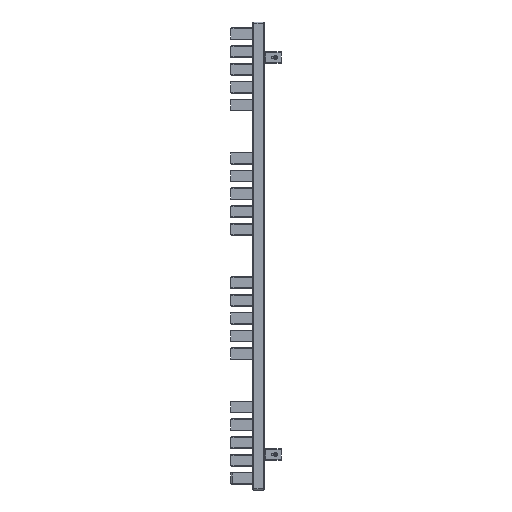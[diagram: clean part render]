
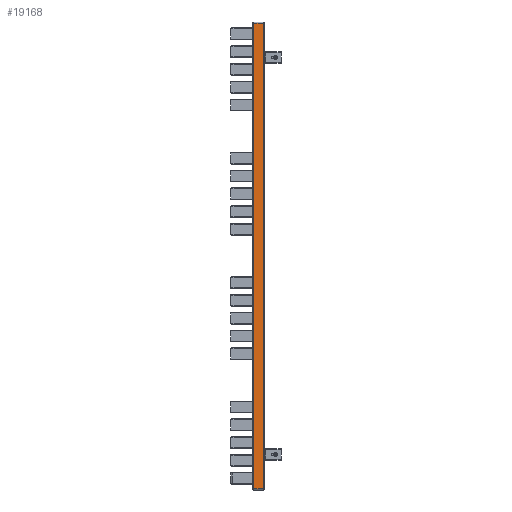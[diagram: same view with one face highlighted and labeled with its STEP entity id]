
A CAD part, left-side view. The second image highlights one B-rep face of the part: STEP entity #19168.
In plain terms, the highlighted planar face has unit normal (-1, 0, 0).
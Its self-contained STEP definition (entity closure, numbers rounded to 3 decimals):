
#19002=CARTESIAN_POINT('',(-300.0,-12.,1182.0));
#19003=VERTEX_POINT('',#19002);
#19012=CARTESIAN_POINT('',(-300.0,12.,1182.0));
#19013=VERTEX_POINT('',#19012);
#19021=CARTESIAN_POINT('',(-300.0,12.,1182.0));
#19022=DIRECTION('',(0.0,-1.0,0.0));
#19023=VECTOR('',#19022,24.);
#19024=LINE('',#19021,#19023);
#19025=EDGE_CURVE('',#19013,#19003,#19024,.T.);
#19126=CARTESIAN_POINT('',(-300.0,-12.,3.0));
#19127=VERTEX_POINT('',#19126);
#19128=CARTESIAN_POINT('',(-300.0,-12.,3.0));
#19129=DIRECTION('',(0.0,0.0,1.0));
#19130=VECTOR('',#19129,1179.0);
#19131=LINE('',#19128,#19130);
#19132=EDGE_CURVE('',#19127,#19003,#19131,.T.);
#19145=CARTESIAN_POINT('',(-300.0,-12.,0.0));
#19146=DIRECTION('',(-1.0,0.0,0.0));
#19147=DIRECTION('',(0.0,0.0,1.0));
#19148=AXIS2_PLACEMENT_3D('',#19145,#19146,#19147);
#19149=PLANE('',#19148);
#19150=ORIENTED_EDGE('',*,*,#19025,.F.);
#19151=CARTESIAN_POINT('',(-300.0,12.,3.0));
#19152=VERTEX_POINT('',#19151);
#19153=CARTESIAN_POINT('',(-300.0,12.,3.0));
#19154=DIRECTION('',(0.0,0.0,1.0));
#19155=VECTOR('',#19154,1179.0);
#19156=LINE('',#19153,#19155);
#19157=EDGE_CURVE('',#19152,#19013,#19156,.T.);
#19158=ORIENTED_EDGE('',*,*,#19157,.F.);
#19159=CARTESIAN_POINT('',(-300.0,-12.,3.0));
#19160=DIRECTION('',(0.0,1.0,0.0));
#19161=VECTOR('',#19160,24.);
#19162=LINE('',#19159,#19161);
#19163=EDGE_CURVE('',#19127,#19152,#19162,.T.);
#19164=ORIENTED_EDGE('',*,*,#19163,.F.);
#19165=ORIENTED_EDGE('',*,*,#19132,.T.);
#19166=EDGE_LOOP('',(#19150,#19158,#19164,#19165));
#19167=FACE_OUTER_BOUND('',#19166,.T.);
#19168=ADVANCED_FACE('',(#19167),#19149,.T.);
